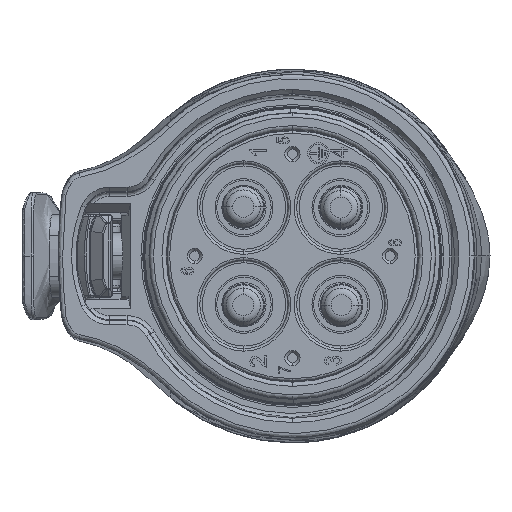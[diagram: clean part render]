
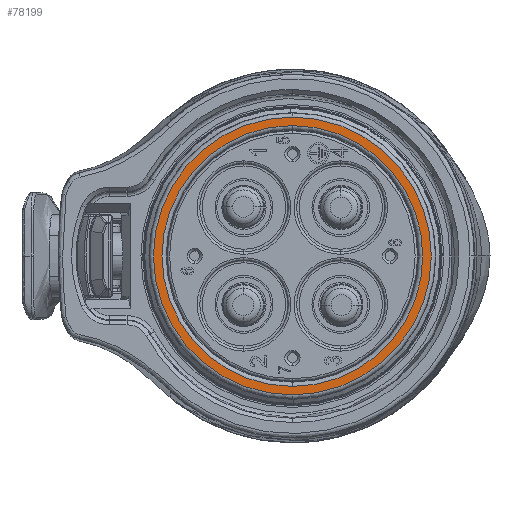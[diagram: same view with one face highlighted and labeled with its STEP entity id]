
A CAD part, left-side view. The second image highlights one B-rep face of the part: STEP entity #78199.
In plain terms, the highlighted planar face has unit normal (-1, 0, 0).
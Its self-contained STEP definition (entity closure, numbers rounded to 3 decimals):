
#4661 = ORIENTED_EDGE ( 'NONE', *, *, #152902, .T. ) ;
#8485 = DIRECTION ( 'NONE',  ( 1., 0., 0. ) ) ;
#10123 = PLANE ( 'NONE',  #82905 ) ;
#12310 = AXIS2_PLACEMENT_3D ( 'NONE', #15852, #120507, #30717 ) ;
#15852 = CARTESIAN_POINT ( 'NONE',  ( -39.899, -1.389, 0.004 ) ) ;
#20757 = DIRECTION ( 'NONE',  ( 0., 0., -1. ) ) ;
#25446 = CIRCLE ( 'NONE', #94519, 16.353 ) ;
#30717 = DIRECTION ( 'NONE',  ( 0., 0., -1. ) ) ;
#31875 = CARTESIAN_POINT ( 'NONE',  ( -39.899, -1.389, -15.348 ) ) ;
#34268 = FACE_BOUND ( 'NONE', #125184, .T. ) ;
#36495 = DIRECTION ( 'NONE',  ( 0., 0., -1. ) ) ;
#38891 = DIRECTION ( 'NONE',  ( -1., 0., 0. ) ) ;
#56592 = EDGE_LOOP ( 'NONE', ( #109035, #57726 ) ) ;
#57726 = ORIENTED_EDGE ( 'NONE', *, *, #109400, .T. ) ;
#63623 = AXIS2_PLACEMENT_3D ( 'NONE', #69048, #157281, #20757 ) ;
#69048 = CARTESIAN_POINT ( 'NONE',  ( -39.899, -1.389, 0.004 ) ) ;
#73892 = CARTESIAN_POINT ( 'NONE',  ( -39.899, -1.389, 0.004 ) ) ;
#74137 = DIRECTION ( 'NONE',  ( 0., 1., 0. ) ) ;
#74861 = CIRCLE ( 'NONE', #96113, 15.352 ) ;
#77106 = DIRECTION ( 'NONE',  ( 0., 0., -1. ) ) ;
#78199 = ADVANCED_FACE ( 'NONE', ( #34268, #124038 ), #10123, .F. ) ;
#82128 = VERTEX_POINT ( 'NONE', #139494 ) ;
#82905 = AXIS2_PLACEMENT_3D ( 'NONE', #149885, #8485, #74137 ) ;
#83961 = CIRCLE ( 'NONE', #12310, 16.353 ) ;
#84722 = CARTESIAN_POINT ( 'NONE',  ( -39.899, -1.389, 15.357 ) ) ;
#88748 = CARTESIAN_POINT ( 'NONE',  ( -39.899, -1.389, 0.004 ) ) ;
#94519 = AXIS2_PLACEMENT_3D ( 'NONE', #88748, #38891, #77106 ) ;
#95720 = VERTEX_POINT ( 'NONE', #31875 ) ;
#96113 = AXIS2_PLACEMENT_3D ( 'NONE', #73892, #112963, #36495 ) ;
#100119 = EDGE_CURVE ( 'NONE', #95720, #148647, #74861, .T. ) ;
#109035 = ORIENTED_EDGE ( 'NONE', *, *, #129854, .T. ) ;
#109400 = EDGE_CURVE ( 'NONE', #137212, #82128, #25446, .T. ) ;
#112963 = DIRECTION ( 'NONE',  ( 1., 0., 0. ) ) ;
#113548 = ORIENTED_EDGE ( 'NONE', *, *, #100119, .T. ) ;
#120507 = DIRECTION ( 'NONE',  ( -1., 0., 0. ) ) ;
#124038 = FACE_OUTER_BOUND ( 'NONE', #56592, .T. ) ;
#125184 = EDGE_LOOP ( 'NONE', ( #113548, #4661 ) ) ;
#129854 = EDGE_CURVE ( 'NONE', #82128, #137212, #83961, .T. ) ;
#137212 = VERTEX_POINT ( 'NONE', #154983 ) ;
#139494 = CARTESIAN_POINT ( 'NONE',  ( -39.899, -1.389, -16.348 ) ) ;
#148647 = VERTEX_POINT ( 'NONE', #84722 ) ;
#149885 = CARTESIAN_POINT ( 'NONE',  ( -39.899, 13.461, 0.004 ) ) ;
#152902 = EDGE_CURVE ( 'NONE', #148647, #95720, #159357, .T. ) ;
#154983 = CARTESIAN_POINT ( 'NONE',  ( -39.899, -1.389, 16.357 ) ) ;
#157281 = DIRECTION ( 'NONE',  ( 1., 0., 0. ) ) ;
#159357 = CIRCLE ( 'NONE', #63623, 15.352 ) ;
